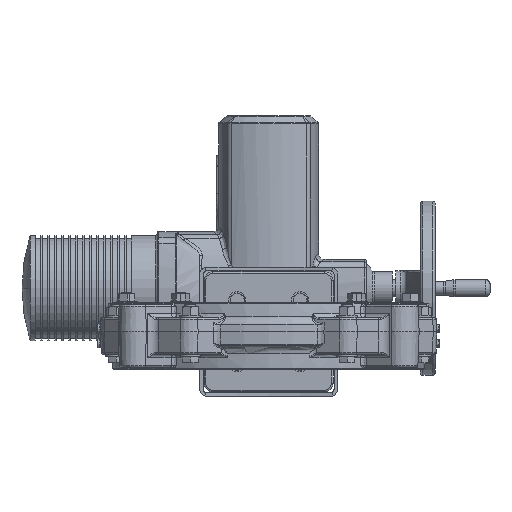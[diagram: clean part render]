
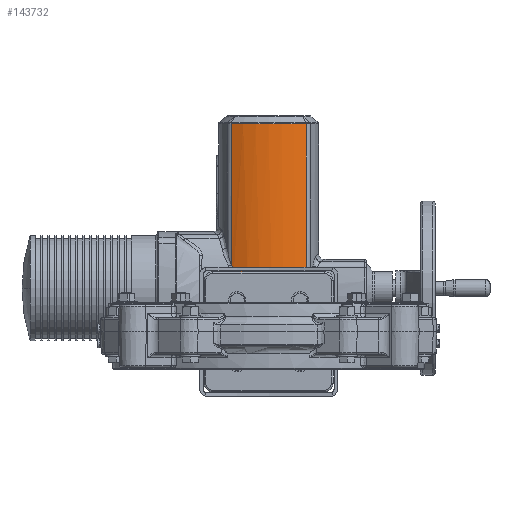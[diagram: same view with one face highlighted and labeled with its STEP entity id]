
A CAD part, front view. The second image highlights one B-rep face of the part: STEP entity #143732.
In plain terms, the highlighted cylindrical face has radius 100 mm (diameter 200 mm), a partial arc.
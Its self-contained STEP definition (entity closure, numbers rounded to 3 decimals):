
#860 = DIRECTION ( 'NONE',  ( 0., 0., -1. ) ) ;
#3049 = CARTESIAN_POINT ( 'NONE',  ( -34.072, 766.421, 63.013 ) ) ;
#3656 = CARTESIAN_POINT ( 'NONE',  ( 10.134, 760.955, 66.458 ) ) ;
#4176 = CARTESIAN_POINT ( 'NONE',  ( -43.041, 770.237, 76.501 ) ) ;
#14025 = CARTESIAN_POINT ( 'NONE',  ( 0., 860.5, 247.75 ) ) ;
#17443 = CARTESIAN_POINT ( 'NONE',  ( -24.276, 763.431, 64.883 ) ) ;
#18044 = CARTESIAN_POINT ( 'NONE',  ( 16.99, 761.939, 65.83 ) ) ;
#20116 = CARTESIAN_POINT ( 'NONE',  ( 0., 860.5, 238.426 ) ) ;
#23417 = CYLINDRICAL_SURFACE ( 'NONE', #42040, 100. ) ;
#30065 = VERTEX_POINT ( 'NONE', #136662 ) ;
#31905 = CARTESIAN_POINT ( 'NONE',  ( -15.843, 761.748, 65.951 ) ) ;
#32517 = CARTESIAN_POINT ( 'NONE',  ( 20.406, 762.6, 65.41 ) ) ;
#34557 = DIRECTION ( 'NONE',  ( 1., 0., 0. ) ) ;
#35628 = CARTESIAN_POINT ( 'NONE',  ( -38.812, 768.333, 67.167 ) ) ;
#36170 = EDGE_CURVE ( 'NONE', #39267, #139687, #158244, .T. ) ;
#38425 = CIRCLE ( 'NONE', #112873, 100. ) ;
#39267 = VERTEX_POINT ( 'NONE', #77180 ) ;
#41637 = CARTESIAN_POINT ( 'NONE',  ( -43.041, 770.237, 247.75 ) ) ;
#42040 = AXIS2_PLACEMENT_3D ( 'NONE', #14025, #860, #158812 ) ;
#44436 = CARTESIAN_POINT ( 'NONE',  ( 43.041, 770.237, 60.688 ) ) ;
#46259 = CARTESIAN_POINT ( 'NONE',  ( -11.541, 761.164, 66.324 ) ) ;
#46869 = CARTESIAN_POINT ( 'NONE',  ( 22.947, 763.165, 65.053 ) ) ;
#48296 = VECTOR ( 'NONE', #141873, 1000. ) ;
#50012 = CARTESIAN_POINT ( 'NONE',  ( -37.247, 767.696, 62.232 ) ) ;
#53637 = LINE ( 'NONE', #180419, #91584 ) ;
#60593 = CARTESIAN_POINT ( 'NONE',  ( -8.931, 760.896, 66.496 ) ) ;
#61213 = CARTESIAN_POINT ( 'NONE',  ( 30.423, 765.179, 63.785 ) ) ;
#66946 = EDGE_LOOP ( 'NONE', ( #163959, #78187, #88940, #89392, #168605 ) ) ;
#74958 = FACE_OUTER_BOUND ( 'NONE', #66946, .T. ) ;
#74991 = CARTESIAN_POINT ( 'NONE',  ( -3.699, 760.507, 66.745 ) ) ;
#75573 = CARTESIAN_POINT ( 'NONE',  ( 39.975, 768.775, 61.568 ) ) ;
#75612 = B_SPLINE_CURVE_WITH_KNOTS ( 'NONE', 3,
 ( #92420, #178439, #121354, #35628, #135820, #50012 ),
 .UNSPECIFIED., .F., .F.,
 ( 4, 2, 4 ),
 ( 0., 0.008, 0.016 ),
 .UNSPECIFIED. ) ;
#77180 = CARTESIAN_POINT ( 'NONE',  ( -43.041, 770.237, 238.426 ) ) ;
#78187 = ORIENTED_EDGE ( 'NONE', *, *, #147722, .T. ) ;
#88940 = ORIENTED_EDGE ( 'NONE', *, *, #171458, .F. ) ;
#89259 = CARTESIAN_POINT ( 'NONE',  ( 6.69, 760.664, 66.645 ) ) ;
#89392 = ORIENTED_EDGE ( 'NONE', *, *, #115923, .T. ) ;
#91584 = VECTOR ( 'NONE', #138428, 1000. ) ;
#92420 = CARTESIAN_POINT ( 'NONE',  ( -43.041, 770.237, 76.501 ) ) ;
#98785 = CARTESIAN_POINT ( 'NONE',  ( 43.041, 770.237, 238.426 ) ) ;
#103104 = CARTESIAN_POINT ( 'NONE',  ( -30.843, 765.314, 63.702 ) ) ;
#103727 = CARTESIAN_POINT ( 'NONE',  ( 15.279, 761.659, 66.008 ) ) ;
#110741 = VERTEX_POINT ( 'NONE', #44436 ) ;
#112873 = AXIS2_PLACEMENT_3D ( 'NONE', #20116, #120245, #34557 ) ;
#115923 = EDGE_CURVE ( 'NONE', #166673, #39267, #38425, .T. ) ;
#117590 = CARTESIAN_POINT ( 'NONE',  ( -20.937, 762.656, 65.374 ) ) ;
#118176 = CARTESIAN_POINT ( 'NONE',  ( 19.552, 762.426, 65.52 ) ) ;
#120245 = DIRECTION ( 'NONE',  ( 0., 0., -1. ) ) ;
#121354 = CARTESIAN_POINT ( 'NONE',  ( -40.772, 769.183, 71.911 ) ) ;
#127689 = EDGE_CURVE ( 'NONE', #139687, #30065, #75612, .T. ) ;
#132065 = CARTESIAN_POINT ( 'NONE',  ( -14.131, 761.488, 66.117 ) ) ;
#132691 = CARTESIAN_POINT ( 'NONE',  ( 22.103, 762.97, 65.176 ) ) ;
#135820 = CARTESIAN_POINT ( 'NONE',  ( -37.946, 767.976, 64.739 ) ) ;
#136662 = CARTESIAN_POINT ( 'NONE',  ( -37.247, 767.696, 62.232 ) ) ;
#138428 = DIRECTION ( 'NONE',  ( 0., 0., -1. ) ) ;
#139687 = VERTEX_POINT ( 'NONE', #4176 ) ;
#141873 = DIRECTION ( 'NONE',  ( 0., 0., -1. ) ) ;
#143732 = ADVANCED_FACE ( 'NONE', ( #74958 ), #23417, .T. ) ;
#146550 = CARTESIAN_POINT ( 'NONE',  ( -10.673, 761.067, 66.386 ) ) ;
#147157 = CARTESIAN_POINT ( 'NONE',  ( 27.143, 764.192, 64.404 ) ) ;
#147722 = EDGE_CURVE ( 'NONE', #30065, #110741, #174944, .T. ) ;
#158244 = LINE ( 'NONE', #41637, #48296 ) ;
#158812 = DIRECTION ( 'NONE',  ( -1., 0., 0. ) ) ;
#161026 = CARTESIAN_POINT ( 'NONE',  ( -8.057, 760.821, 66.544 ) ) ;
#161623 = CARTESIAN_POINT ( 'NONE',  ( 36.839, 767.47, 62.368 ) ) ;
#163959 = ORIENTED_EDGE ( 'NONE', *, *, #127689, .T. ) ;
#166673 = VERTEX_POINT ( 'NONE', #98785 ) ;
#168605 = ORIENTED_EDGE ( 'NONE', *, *, #36170, .T. ) ;
#171458 = EDGE_CURVE ( 'NONE', #166673, #110741, #53637, .T. ) ;
#174653 = CARTESIAN_POINT ( 'NONE',  ( -37.247, 767.696, 62.232 ) ) ;
#174944 = B_SPLINE_CURVE_WITH_KNOTS ( 'NONE', 3,
 ( #174653, #3049, #103104, #17443, #117590, #31905, #132065, #46259, #146550, #60593, #161026, #74991, #175281, #89259, #3656, #103727, #18044, #118176, #32517, #132691, #46869, #147157, #61213, #161623, #75573, #175899 ),
 .UNSPECIFIED., .F., .F.,
 ( 4, 2, 2, 2, 2, 2, 2, 2, 2, 2, 2, 2, 4 ),
 ( 0., 0.01, 0.021, 0.026, 0.029, 0.031, 0.042, 0.052, 0.057, 0.06, 0.062, 0.073, 0.083 ),
 .UNSPECIFIED. ) ;
#175281 = CARTESIAN_POINT ( 'NONE',  ( -0.227, 760.44, 66.788 ) ) ;
#175899 = CARTESIAN_POINT ( 'NONE',  ( 43.041, 770.237, 60.688 ) ) ;
#178439 = CARTESIAN_POINT ( 'NONE',  ( -41.868, 769.677, 74.227 ) ) ;
#180419 = CARTESIAN_POINT ( 'NONE',  ( 43.041, 770.237, 247.75 ) ) ;
